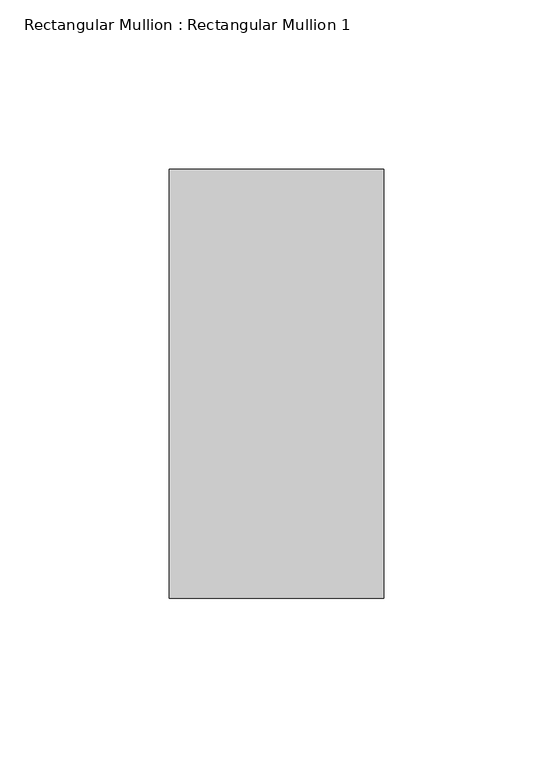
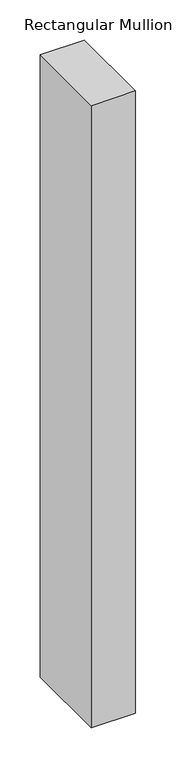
"""IFC4 building model written with IfcOpenShell, lengths in millimetres: member geometry, Rectangular Mullion : Rectangular Mullion 1."""

import ifcopenshell
import ifcopenshell.guid

model = None  # the IFC model being written
_history = None  # IfcOwnerHistory: only IFC2X3 demands one
_inside = {}  # id of a spatial element -> (the spatial element, [elements in it])
_under = {}  # id of a project, library or spatial element -> (it, [spatial elements below it])
_declared = {}  # id of a project -> (the project, [libraries it declares])
_typed = {}  # id of a type object -> (the type object, [elements of that type])
_made_of = {}  # id of a material, layer set ... -> (it, [elements and type objects made of it])


def new_model(schema):
    """Start an empty IFC model of exactly this schema.

    Asked for "IFC4X3", IfcOpenShell would pick the latest addendum, in which some entities
    have other attributes; the version numbers below select the first issue.
    IFC2X3 requires an IfcOwnerHistory on every rooted entity: one is made here for all.
    """
    global model, _history
    if schema == "IFC4X3":
        model = ifcopenshell.file(schema_version=(4, 3, 0, 0))
    else:
        model = ifcopenshell.file(schema=schema)
    _inside.clear()
    _under.clear()
    _declared.clear()
    _typed.clear()
    _made_of.clear()
    _history = None
    if model.schema == "IFC2X3":
        org = make("IfcOrganization", Name="unknown")
        user = make(
            "IfcPersonAndOrganization",
            ThePerson=make("IfcPerson", FamilyName="unknown"),
            TheOrganization=org,
        )
        app = make(
            "IfcApplication",
            ApplicationDeveloper=org,
            Version="unknown",
            ApplicationFullName="unknown",
            ApplicationIdentifier="unknown",
        )
        _history = make(
            "IfcOwnerHistory",
            OwningUser=user,
            OwningApplication=app,
            ChangeAction="ADDED",
            CreationDate=0,
        )
    return model


def make(cls, **values):
    """One entity of the class cls with the attributes given. An attribute that is None is left unset."""
    return model.create_entity(
        cls, **{name: value for name, value in values.items() if value is not None}
    )


def rooted(cls, **values):
    """An entity with a GlobalId (a new one), such as an element, a storey or a relation."""
    return make(cls, GlobalId=ifcopenshell.guid.new(), OwnerHistory=_history, **values)


def si_unit(unit_type, name, prefix=None):
    """IfcSIUnit, for example si_unit("LENGTHUNIT", "METRE", prefix="MILLI")."""
    return make("IfcSIUnit", UnitType=unit_type, Prefix=prefix, Name=name)


def assignment(units):
    """IfcUnitAssignment: the units of a project."""
    return None if units is None else make("IfcUnitAssignment", Units=units)


def point(xyz):
    """IfcCartesianPoint."""
    return None if xyz is None else make("IfcCartesianPoint", Coordinates=xyz)


def direction(xyz):
    """IfcDirection."""
    return None if xyz is None else make("IfcDirection", DirectionRatios=xyz)


def frame(location, z_axis=None, x_axis=None):
    """IfcAxis2Placement3D, a coordinate frame: its origin and axes. An axis left out is left unset."""
    return make(
        "IfcAxis2Placement3D",
        Location=point(location),
        Axis=direction(z_axis),
        RefDirection=direction(x_axis),
    )


def origin():
    """The frame at (0, 0, 0) with its axes left unset."""
    return frame((0.0, 0.0, 0.0))


def place(relative_to, where):
    """IfcLocalPlacement: puts the frame where relative to a parent placement (None: the world)."""
    return make(
        "IfcLocalPlacement", PlacementRelTo=relative_to, RelativePlacement=where
    )


def context(
    kind, dimensions, precision=None, world=None, true_north=None, identifier=None
):
    """IfcGeometricRepresentationContext, for example the 3D "Model" context."""
    return make(
        "IfcGeometricRepresentationContext",
        ContextIdentifier=identifier,
        ContextType=kind,
        CoordinateSpaceDimension=dimensions,
        Precision=precision,
        WorldCoordinateSystem=world,
        TrueNorth=true_north,
    )


def project(units=None, contexts=None):
    """IfcProject with its units and contexts."""
    return rooted(
        "IfcProject",
        Name="project",
        RepresentationContexts=contexts,
        UnitsInContext=assignment(units),
    )


def spatial(cls, under=None, at=None, **own):
    """A site, building, storey or space (cls), placed at a placement, below another one or the project."""
    s = rooted(cls, ObjectPlacement=at, **own)
    if under is not None:
        _under.setdefault(under.id(), (under, []))[1].append(s)
    return s


def polyline(points):
    """IfcPolyline through the points."""
    return make("IfcPolyline", Points=[point(p) for p in points])


def outline(outer, holes=None, kind="AREA"):
    """IfcArbitraryClosedProfileDef: a profile drawn as a closed curve; with holes, ...WithVoids."""
    if holes is None:
        return make("IfcArbitraryClosedProfileDef", ProfileType=kind, OuterCurve=outer)
    return make(
        "IfcArbitraryProfileDefWithVoids",
        ProfileType=kind,
        OuterCurve=outer,
        InnerCurves=holes,
    )


def extrude(swept, where, along, depth):
    """IfcExtrudedAreaSolid: the profile swept, set in the frame where, extruded along a direction by depth."""
    return make(
        "IfcExtrudedAreaSolid",
        SweptArea=swept,
        Position=where,
        ExtrudedDirection=direction(along),
        Depth=depth,
    )


def shape(context_of_items, identifier, shape_type, items):
    """IfcShapeRepresentation: the items that make up one representation, for example the "Body"."""
    return make(
        "IfcShapeRepresentation",
        ContextOfItems=context_of_items,
        RepresentationIdentifier=identifier,
        RepresentationType=shape_type,
        Items=items,
    )


def source(mapping_origin, context_of_items, identifier, shape_type, items):
    """IfcRepresentationMap: a shape defined once, which mapped items show again and again."""
    return make(
        "IfcRepresentationMap",
        MappingOrigin=mapping_origin,
        MappedRepresentation=shape(context_of_items, identifier, shape_type, items),
    )


def transform(
    local_origin,
    x_axis=None,
    y_axis=None,
    z_axis=None,
    scale=None,
    scale2=None,
    scale3=None,
    uniform=True,
):
    """IfcCartesianTransformationOperator3D, or its non-uniform kind. x_axis, y_axis, z_axis: its Axis1, 2, 3."""
    if uniform:
        return make(
            "IfcCartesianTransformationOperator3D",
            Axis1=direction(x_axis),
            Axis2=direction(y_axis),
            LocalOrigin=point(local_origin),
            Scale=scale,
            Axis3=direction(z_axis),
        )
    return make(
        "IfcCartesianTransformationOperator3DnonUniform",
        Axis1=direction(x_axis),
        Axis2=direction(y_axis),
        LocalOrigin=point(local_origin),
        Scale=scale,
        Axis3=direction(z_axis),
        Scale2=scale2,
        Scale3=scale3,
    )


def mapped(mapping_source, mapping_target):
    """IfcMappedItem: shows the shape of a source again, moved by a transform."""
    return make(
        "IfcMappedItem", MappingSource=mapping_source, MappingTarget=mapping_target
    )


def made_of(thing, what):
    """Note that an element or type object is made of a material, layer set ...; save() writes the relation."""
    if what is not None:
        _made_of.setdefault(what.id(), (what, []))[1].append(thing)
    return thing


def element(
    cls,
    number,
    at=None,
    inside=None,
    cuts=None,
    type_object=None,
    material=None,
    context=None,
    identifier="Body",
    shape_type=None,
    held_by="IfcProductDefinitionShape",
    body=None,
    shapes=None,
    **own,
):
    """One element of the class cls, such as IfcWall. Its Tag is "e" and its number.

    at: its placement. inside: the storey or other place that contains it. cuts: it is an
    opening in that element (IfcRelVoidsElement). A single representation is given by context,
    identifier, shape_type and body (its items); several are given by shapes. held_by: the class
    of the entity that holds the representations. save() writes the other relations.
    """
    e = rooted(cls, Tag="e%d" % number, ObjectPlacement=at, **own)
    if body is not None:
        shapes = [shape(context, identifier, shape_type, body)]
    if shapes is not None:
        e.Representation = make(held_by, Representations=shapes)
    if inside is not None:
        _inside.setdefault(inside.id(), (inside, []))[1].append(e)
    if cuts is not None:
        rooted(
            "IfcRelVoidsElement", RelatingBuildingElement=cuts, RelatedOpeningElement=e
        )
    if type_object is not None:
        _typed.setdefault(type_object.id(), (type_object, []))[1].append(e)
    return made_of(e, material)


def aggregate(whole, parts):
    """IfcRelAggregates: a whole, such as a stair, and the parts it consists of."""
    return rooted("IfcRelAggregates", RelatingObject=whole, RelatedObjects=parts)


def save(model, path):
    """Write the relations noted so far, then the file.

    IfcRelAggregates (storeys below a building ...), IfcRelContainedInSpatialStructure (elements
    in a storey), IfcRelDefinesByType, IfcRelAssociatesMaterial and IfcRelDeclares: one each for
    every whole, place, type object, material and project.
    """
    for whole, parts in _under.values():
        aggregate(whole, parts)
    for where, things in _inside.values():
        rooted(
            "IfcRelContainedInSpatialStructure",
            RelatedElements=things,
            RelatingStructure=where,
        )
    for kind, things in _typed.values():
        rooted("IfcRelDefinesByType", RelatedObjects=things, RelatingType=kind)
    for what, things in _made_of.values():
        rooted("IfcRelAssociatesMaterial", RelatedObjects=things, RelatingMaterial=what)
    for by, libraries in _declared.values():
        rooted("IfcRelDeclares", RelatingContext=by, RelatedDefinitions=libraries)
    model.write(path)


def rectangular_mullion_rectangular_mullion_1_6f9830c5(model_context):
    return source(origin(), model_context, "Body", "SweptSolid", [
        extrude(outline(polyline([(0.0, 63.5), (0.0, -63.5), (-63.5, -63.5), (-63.5, 63.5), (0.0, 63.5)])), frame((0.0, 0.0, -945.0916667), z_axis=(0.0, 0.0, 1.0), x_axis=(1.0, 0.0, 0.0)), (0.0, 0.0, 1.0), 945.0916667),
    ])


if __name__ == "__main__":
    model = new_model("IFC4")
    model_context = context("Model", 3, world=origin())
    ifc_project = project(units=[si_unit("LENGTHUNIT", "METRE", prefix="MILLI")], contexts=[model_context])
    site = spatial("IfcSite", under=ifc_project)
    building = spatial("IfcBuilding", under=site)
    placement = place(None, origin())
    rectangular_mullion_rectangular_mullion_1_shape = rectangular_mullion_rectangular_mullion_1_6f9830c5(model_context)
    element("IfcMember", 1, ObjectType="Rectangular Mullion : Rectangular Mullion 1", at=placement, inside=building, context=model_context, shape_type="MappedRepresentation", body=[
        mapped(rectangular_mullion_rectangular_mullion_1_shape, transform((0.0, 0.0, 0.0), x_axis=(1.0, 0.0, 0.0), y_axis=(0.0, 1.0, 0.0), z_axis=(0.0, 0.0, 1.0))),
    ])
    save(model, "model.ifc")
